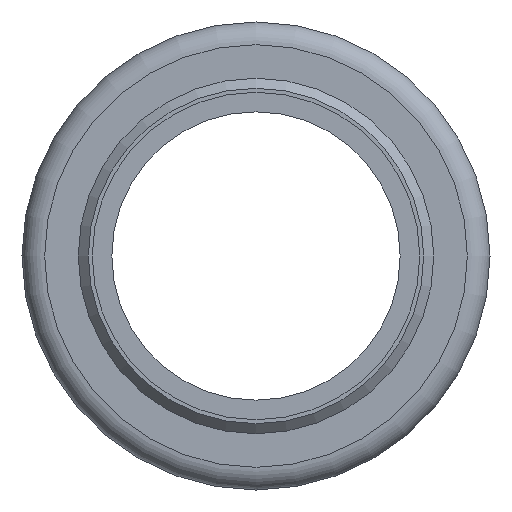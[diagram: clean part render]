
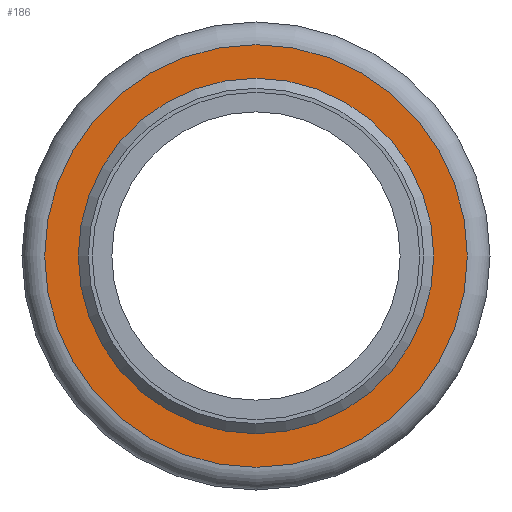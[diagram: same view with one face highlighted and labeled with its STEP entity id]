
A CAD part, front view. The second image highlights one B-rep face of the part: STEP entity #186.
In plain terms, the highlighted planar face has unit normal (0, -1, 0).
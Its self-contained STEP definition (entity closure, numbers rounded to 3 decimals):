
#34=PLANE('',#236);
#55=ORIENTED_EDGE('',*,*,#81,.T.);
#56=ORIENTED_EDGE('',*,*,#80,.F.);
#80=EDGE_CURVE('',#95,#95,#110,.T.);
#81=EDGE_CURVE('',#96,#96,#111,.T.);
#95=VERTEX_POINT('',#342);
#96=VERTEX_POINT('',#345);
#110=CIRCLE('',#235,70.65);
#111=CIRCLE('',#237,84.);
#130=EDGE_LOOP('',(#55));
#131=EDGE_LOOP('',(#56));
#160=FACE_BOUND('',#130,.T.);
#161=FACE_BOUND('',#131,.T.);
#186=ADVANCED_FACE('',(#160,#161),#34,.T.);
#235=AXIS2_PLACEMENT_3D('',#341,#282,#283);
#236=AXIS2_PLACEMENT_3D('',#343,#284,#285);
#237=AXIS2_PLACEMENT_3D('',#344,#286,#287);
#282=DIRECTION('',(0.,-1.,0.));
#283=DIRECTION('',(0.,0.,-1.));
#284=DIRECTION('',(0.,-1.,0.));
#285=DIRECTION('',(0.,0.,-1.));
#286=DIRECTION('',(0.,-1.,0.));
#287=DIRECTION('',(0.,0.,-1.));
#341=CARTESIAN_POINT('',(0.,0.,0.));
#342=CARTESIAN_POINT('',(0.,0.,-70.65));
#343=CARTESIAN_POINT('',(0.,0.,70.65));
#344=CARTESIAN_POINT('',(0.,0.,0.));
#345=CARTESIAN_POINT('',(0.,0.,-84.));
